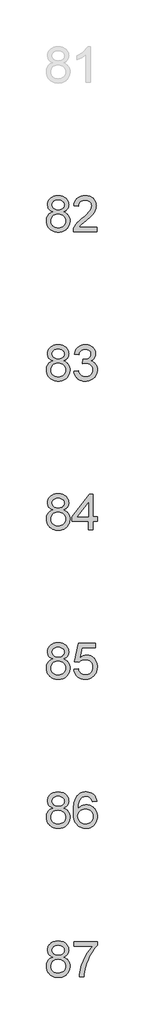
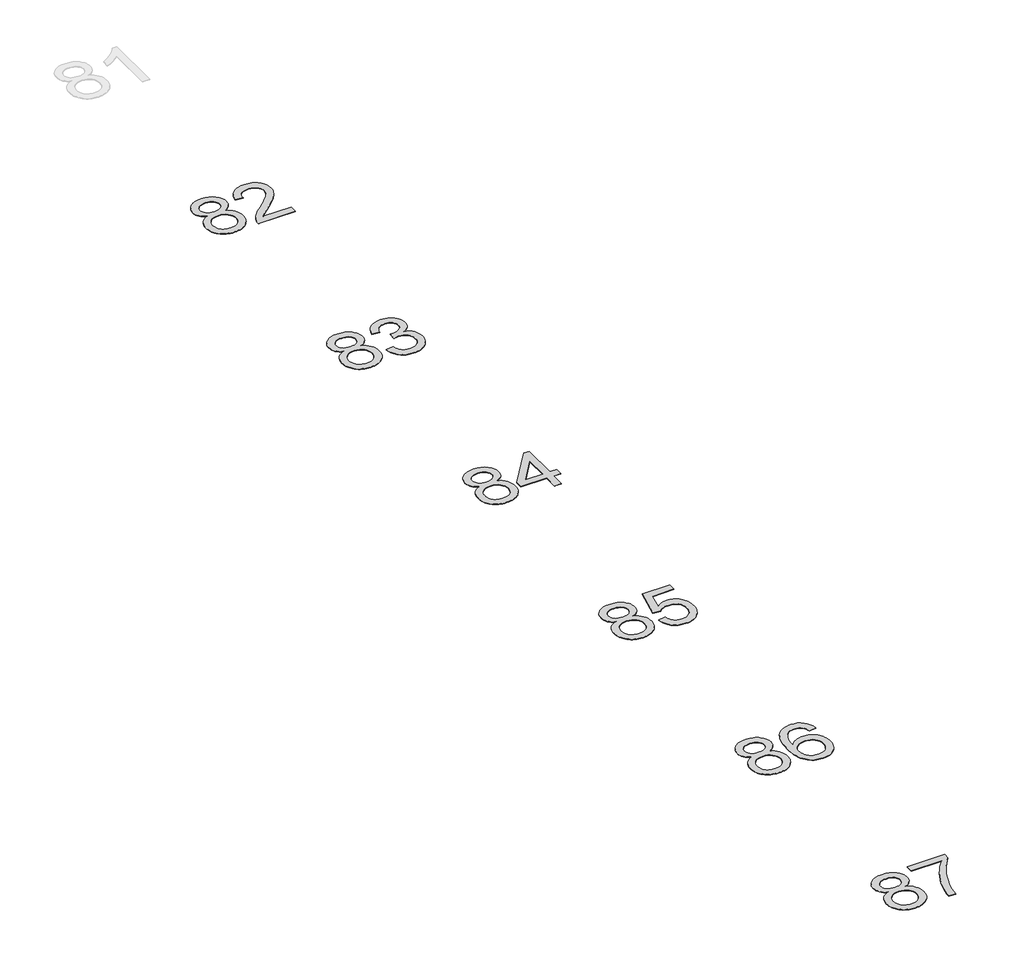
# One storey, part 1 of 19: 6 proxies.
"""IFC4 building model written with IfcOpenShell, lengths in millimetres."""

from ifc_helpers import new_model, si_unit, origin, origin_with_axes, place, context, project, spatial, polyline, outline, extrude, element, save

model = new_model("IFC4")

# Units and contexts
model_context = context("Model", 3, world=origin())
ifc_project = project(units=[si_unit("LENGTHUNIT", "METRE", prefix="MILLI")], contexts=[model_context])

# Site, building, storey
site = spatial("IfcSite", under=ifc_project)
building = spatial("IfcBuilding", under=site)
storey = spatial("IfcBuildingStorey", under=building, Name="Marelli - Linha ACTIVE - Planta Baixa", Elevation=0.0)

# Proxies
placement = place(None, origin())
element("IfcBuildingElementProxy", 1, Name="1200mm Arial", ObjectType="1200mm Arial", at=placement, inside=storey, context=model_context, shape_type="SweptSolid", body=[
    extrude(outline(polyline([(-24961.5794045, -198324.8650154), (-25004.9251006, -198306.7652212), (-25042.255926, -198285.1337599), (-25073.5718809, -198259.9706314), (-25098.8729651, -198231.2758358), (-25118.3799079, -198199.3252845), (-25132.3134384, -198164.3948891), (-25140.6735568, -198126.4846495), (-25143.4602629, -198085.5945657), (-25137.39021, -198024.1398784), (-25129.8026438, -197995.3301197), (-25119.1800512, -197967.7987509), (-25105.5224321, -197941.545772), (-25088.8297866, -197916.571183), (-25046.3394162, -197870.4571749), (-25021.0521275, -197850.0397242), (-24993.750685, -197832.3446002), (-24964.4350885, -197817.371803), (-24933.1053381, -197805.1213326), (-24864.4033755, -197788.787372), (-24787.6447972, -197783.3427185), (-24710.5183369, -197788.9161307), (-24641.3013395, -197805.6363674), (-24609.6588894, -197818.1765449), (-24579.993805, -197833.5034285), (-24552.3060863, -197851.6170183), (-24526.5957334, -197872.5173141), (-24483.3328108, -197919.5326331), (-24466.3366626, -197944.8613085), (-24452.4307232, -197971.4039944), (-24441.6149925, -197999.1606909), (-24433.8894706, -198028.1313981), (-24429.2541575, -198058.3161158), (-24427.7090531, -198089.7148441), (-24430.458971, -198129.160991), (-24438.7087247, -198165.9767817), (-24452.4583143, -198200.1622161), (-24471.7077397, -198231.7172942), (-24496.5489714, -198260.2189518), (-24527.07398, -198285.2441245), (-24563.2827654, -198306.7928124), (-24605.1753276, -198324.8650154), (-24555.649214, -198345.9354566), (-24512.4322766, -198372.6528865), (-24475.5245154, -198405.0173051), (-24444.9259305, -198443.0287122), (-24420.9124332, -198485.8409794), (-24403.7599352, -198532.607978), (-24393.4684364, -198583.3297081), (-24390.0379368, -198638.0061697), (-24391.739391, -198676.3670647), (-24396.8437537, -198713.1644613), (-24405.3510248, -198748.3983594), (-24417.2612044, -198782.068759), (-24432.5742925, -198814.1756601), (-24451.290289, -198844.7190628), (-24473.4091939, -198873.6989669), (-24498.9310073, -198901.1153726), (-24527.2303298, -198926.085363), (-24557.681762, -198947.7260214), (-24590.2853038, -198966.0373477), (-24625.0409553, -198981.019342), (-24661.9487165, -198992.6720042), (-24701.0085873, -199000.9953343), (-24742.2205678, -199005.9893324), (-24785.584658, -199007.6539984), (-24828.9487482, -199005.9824346), (-24870.1607287, -199000.9677432), (-24909.2205995, -198992.6099241), (-24946.1283607, -198980.9089774), (-24980.8840122, -198965.864903), (-25013.487554, -198947.4777011), (-25043.9389862, -198925.7473715), (-25072.2383086, -198900.6739142), (-25097.760122, -198873.1034579), (-25119.879027, -198843.8821312), (-25138.5950235, -198813.009934), (-25153.9081116, -198780.4868664), (-25165.8182912, -198746.3129283), (-25174.3255623, -198710.4881198), (-25179.429925, -198673.0124408), (-25181.1313792, -198633.8858913), (-25177.5629239, -198576.7170293), (-25166.8575578, -198524.4042096), (-25149.015281, -198476.9474322), (-25124.0360936, -198434.3466971), (-25092.4718184, -198397.3745566), (-25054.8742785, -198366.8035628), (-25011.2434738, -198342.6337157), (-24961.5794045, -198324.8650154)]), holes=[polyline([(-24992.7757977, -198090.0091497), (-24989.4372686, -198124.553269), (-24979.4216812, -198155.7864504), (-24962.7290357, -198183.7086938), (-24939.359332, -198208.3199993), (-24909.6068756, -198228.4063562), (-24873.7659722, -198242.753754), (-24831.8366218, -198251.3621927), (-24783.8188244, -198254.2316723), (-24736.9874464, -198251.3805868), (-24695.968604, -198242.8273304), (-24660.762297, -198228.5719031), (-24631.3685256, -198208.6143049), (-24608.1919599, -198184.5180342), (-24591.6372701, -198157.8465896), (-24581.7044563, -198128.5999709), (-24578.3935183, -198096.7781784), (-24581.8148209, -198063.714784), (-24592.0787285, -198033.3921106), (-24609.1852413, -198005.810158), (-24633.1343592, -197980.9689263), (-24663.1903182, -197960.4319139), (-24698.6173543, -197945.7626193), (-24739.4154676, -197936.9610426), (-24785.584658, -197934.0271837), (-24832.1125333, -197936.8966633), (-24873.1037846, -197945.5051019), (-24908.5584119, -197959.8524998), (-24938.4764152, -197979.9388567), (-24962.232395, -198004.0351274), (-24979.2009521, -198030.4122664), (-24989.3820863, -198059.0702739), (-24992.7757977, -198090.0091497)]), polyline([(-25030.446914, -198628.5883906), (-25028.8742185, -198657.6418712), (-25024.1561319, -198686.2354992), (-25005.2837855, -198742.0431979), (-24990.2833972, -198767.9328933), (-24970.4453606, -198790.7139859), (-24945.7696757, -198810.3864756), (-24916.2563427, -198826.9503624), (-24884.0666681, -198840.0837496), (-24851.3619587, -198849.4647405), (-24818.1422146, -198855.093335), (-24784.4074356, -198856.9695332), (-24729.9241121, -198853.0239988), (-24681.8419354, -198841.1873956), (-24640.1609053, -198821.4597236), (-24604.881022, -198793.8409828), (-24576.8116257, -198760.133795), (-24556.762057, -198722.140782), (-24544.7323157, -198679.8619437), (-24540.722402, -198633.2972801), (-24544.8610744, -198585.9876555), (-24557.2770918, -198542.9454621), (-24577.970454, -198504.1706998), (-24606.9411611, -198469.6633687), (-24643.1775377, -198441.336455), (-24685.6679081, -198421.1029453), (-24734.4122725, -198408.9628395), (-24789.4106307, -198404.9161375), (-24843.0938109, -198408.9076572), (-24890.5413912, -198420.8822161), (-24931.7533717, -198440.8398144), (-24966.7297524, -198468.7804519), (-24994.6060106, -198502.7175659), (-25014.5176236, -198540.6645937), (-25026.4645914, -198582.6215353), (-25030.446914, -198628.5883906)])]), origin_with_axes(), (0.0, 0.0, 1.0), 10.0),
    extrude(outline(polyline([(-23485.9311454, -198838.133975), (-23485.9311454, -198988.8184403), (-24277.0245879, -198988.8184403), (-24273.7136499, -198935.7698566), (-24260.8377801, -198884.9285648), (-24244.411849, -198844.029284), (-24223.6816986, -198803.7370085), (-24198.6473288, -198764.0517383), (-24169.3087397, -198724.9734733), (-24133.9000976, -198684.9755034), (-24090.6555691, -198642.5311182), (-23980.6588525, -198550.303102), (-23891.2267395, -198473.3605827), (-23818.0550107, -198405.8726307), (-23761.143666, -198347.839246), (-23720.4927056, -198299.2604285), (-23692.0370332, -198255.7032003), (-23671.711553, -198212.7345832), (-23659.5162649, -198170.3545774), (-23655.4511688, -198128.5631827), (-23659.2863386, -198089.2457945), (-23670.791848, -198053.1105855), (-23689.967697, -198020.1575558), (-23716.8138856, -197990.3867054), (-23749.8404917, -197965.7294146), (-23787.5575933, -197948.1170641), (-23829.9651903, -197937.5496538), (-23877.0632827, -197934.0271837), (-23926.6813668, -197937.4668804), (-23971.0571325, -197947.7859703), (-24010.1905797, -197964.9844536), (-24044.0817085, -197989.0623302), (-24071.4981142, -198019.2102597), (-24091.2073921, -198054.6189017), (-24103.2095422, -198095.2882563), (-24107.5045645, -198141.2183234), (-24258.1890297, -198122.3827652), (-24245.2303864, -198044.5941173), (-24234.7710414, -198009.3832119), (-24221.6583476, -197976.6279187), (-24205.8923048, -197946.3282379), (-24187.4729132, -197918.4841694), (-24166.4001726, -197893.0957132), (-24142.6740832, -197870.1628693), (-24116.5521623, -197849.8143965), (-24088.2919273, -197832.1790533), (-24057.8933782, -197817.2568399), (-24025.356515, -197805.0477562), (-23953.8678462, -197788.7689779), (-23873.8259211, -197783.3427185), (-23793.0666262, -197789.3759832), (-23756.01861, -197796.9175641), (-23721.1916813, -197807.4757774), (-23688.5858403, -197821.050623), (-23658.2010867, -197837.642101), (-23630.0374207, -197857.2502113), (-23604.0948423, -197879.874954), (-23580.8148098, -197904.7345798), (-23560.6387816, -197931.0473395), (-23543.5667578, -197958.8132331), (-23529.5987383, -197988.0322606), (-23518.7347231, -198018.7044219), (-23510.9747123, -198050.8297172), (-23506.3187057, -198084.4081463), (-23504.7667036, -198119.4397093), (-23506.4405667, -198155.6301005), (-23511.4621559, -198191.5077921), (-23519.8314713, -198227.072784), (-23531.5485128, -198262.3250762), (-23547.1559065, -198297.880871), (-23567.1962782, -198334.3563708), (-23620.5759557, -198410.0664855), (-23657.4101404, -198452.0510182), (-23705.6670611, -198500.4550917), (-23836.4491104, -198616.5218611), (-24009.7951066, -198761.4673672), (-24047.3926465, -198799.6903065), (-24077.7796993, -198838.133975), (-23485.9311454, -198838.133975)])), origin_with_axes(), (0.0, 0.0, 1.0), 10.0),
])
element("IfcBuildingElementProxy", 2, Name="1200mm Arial", ObjectType="1200mm Arial", at=placement, inside=storey, context=model_context, shape_type="SweptSolid", body=[
    extrude(outline(polyline([(-24961.5794045, -203324.8650154), (-25004.9251006, -203306.7652212), (-25042.255926, -203285.1337599), (-25073.5718809, -203259.9706314), (-25098.8729651, -203231.2758358), (-25118.3799079, -203199.3252845), (-25132.3134384, -203164.3948891), (-25140.6735568, -203126.4846495), (-25143.4602629, -203085.5945657), (-25137.39021, -203024.1398784), (-25129.8026438, -202995.3301197), (-25119.1800512, -202967.7987509), (-25105.5224321, -202941.545772), (-25088.8297866, -202916.571183), (-25046.3394162, -202870.4571749), (-25021.0521275, -202850.0397242), (-24993.750685, -202832.3446002), (-24964.4350885, -202817.371803), (-24933.1053381, -202805.1213326), (-24864.4033755, -202788.787372), (-24787.6447972, -202783.3427185), (-24710.5183369, -202788.9161307), (-24641.3013395, -202805.6363674), (-24609.6588894, -202818.1765449), (-24579.993805, -202833.5034285), (-24552.3060863, -202851.6170183), (-24526.5957334, -202872.5173141), (-24483.3328108, -202919.5326331), (-24466.3366626, -202944.8613085), (-24452.4307232, -202971.4039944), (-24441.6149925, -202999.1606909), (-24433.8894706, -203028.1313981), (-24429.2541575, -203058.3161158), (-24427.7090531, -203089.7148441), (-24430.458971, -203129.160991), (-24438.7087247, -203165.9767817), (-24452.4583143, -203200.1622161), (-24471.7077397, -203231.7172942), (-24496.5489714, -203260.2189518), (-24527.07398, -203285.2441245), (-24563.2827654, -203306.7928124), (-24605.1753276, -203324.8650154), (-24555.649214, -203345.9354566), (-24512.4322766, -203372.6528865), (-24475.5245154, -203405.0173051), (-24444.9259305, -203443.0287122), (-24420.9124332, -203485.8409794), (-24403.7599352, -203532.607978), (-24393.4684364, -203583.3297081), (-24390.0379368, -203638.0061697), (-24391.739391, -203676.3670647), (-24396.8437537, -203713.1644613), (-24405.3510248, -203748.3983594), (-24417.2612044, -203782.068759), (-24432.5742925, -203814.1756601), (-24451.290289, -203844.7190628), (-24473.4091939, -203873.6989669), (-24498.9310073, -203901.1153726), (-24527.2303298, -203926.085363), (-24557.681762, -203947.7260214), (-24590.2853038, -203966.0373477), (-24625.0409553, -203981.019342), (-24661.9487165, -203992.6720042), (-24701.0085873, -204000.9953343), (-24742.2205678, -204005.9893324), (-24785.584658, -204007.6539984), (-24828.9487482, -204005.9824346), (-24870.1607287, -204000.9677432), (-24909.2205995, -203992.6099241), (-24946.1283607, -203980.9089774), (-24980.8840122, -203965.864903), (-25013.487554, -203947.4777011), (-25043.9389862, -203925.7473715), (-25072.2383086, -203900.6739142), (-25097.760122, -203873.1034579), (-25119.879027, -203843.8821312), (-25138.5950235, -203813.009934), (-25153.9081116, -203780.4868664), (-25165.8182912, -203746.3129283), (-25174.3255623, -203710.4881198), (-25179.429925, -203673.0124408), (-25181.1313792, -203633.8858913), (-25177.5629239, -203576.7170293), (-25166.8575578, -203524.4042096), (-25149.015281, -203476.9474322), (-25124.0360936, -203434.3466971), (-25092.4718184, -203397.3745566), (-25054.8742785, -203366.8035628), (-25011.2434738, -203342.6337157), (-24961.5794045, -203324.8650154)]), holes=[polyline([(-24992.7757977, -203090.0091497), (-24989.4372686, -203124.553269), (-24979.4216812, -203155.7864504), (-24962.7290357, -203183.7086938), (-24939.359332, -203208.3199993), (-24909.6068756, -203228.4063562), (-24873.7659722, -203242.753754), (-24831.8366218, -203251.3621927), (-24783.8188244, -203254.2316723), (-24736.9874464, -203251.3805868), (-24695.968604, -203242.8273304), (-24660.762297, -203228.5719031), (-24631.3685256, -203208.6143049), (-24608.1919599, -203184.5180342), (-24591.6372701, -203157.8465896), (-24581.7044563, -203128.5999709), (-24578.3935183, -203096.7781784), (-24581.8148209, -203063.714784), (-24592.0787285, -203033.3921106), (-24609.1852413, -203005.810158), (-24633.1343592, -202980.9689263), (-24663.1903182, -202960.4319139), (-24698.6173543, -202945.7626193), (-24739.4154676, -202936.9610426), (-24785.584658, -202934.0271837), (-24832.1125333, -202936.8966633), (-24873.1037846, -202945.5051019), (-24908.5584119, -202959.8524998), (-24938.4764152, -202979.9388567), (-24962.232395, -203004.0351274), (-24979.2009521, -203030.4122664), (-24989.3820863, -203059.0702739), (-24992.7757977, -203090.0091497)]), polyline([(-25030.446914, -203628.5883906), (-25028.8742185, -203657.6418712), (-25024.1561319, -203686.2354992), (-25005.2837855, -203742.0431979), (-24990.2833972, -203767.9328933), (-24970.4453606, -203790.7139859), (-24945.7696757, -203810.3864756), (-24916.2563427, -203826.9503624), (-24884.0666681, -203840.0837496), (-24851.3619587, -203849.4647405), (-24818.1422146, -203855.093335), (-24784.4074356, -203856.9695332), (-24729.9241121, -203853.0239988), (-24681.8419354, -203841.1873956), (-24640.1609053, -203821.4597236), (-24604.881022, -203793.8409828), (-24576.8116257, -203760.133795), (-24556.762057, -203722.140782), (-24544.7323157, -203679.8619437), (-24540.722402, -203633.2972801), (-24544.8610744, -203585.9876555), (-24557.2770918, -203542.9454621), (-24577.970454, -203504.1706998), (-24606.9411611, -203469.6633687), (-24643.1775377, -203441.336455), (-24685.6679081, -203421.1029453), (-24734.4122725, -203408.9628395), (-24789.4106307, -203404.9161375), (-24843.0938109, -203408.9076572), (-24890.5413912, -203420.8822161), (-24931.7533717, -203440.8398144), (-24966.7297524, -203468.7804519), (-24994.6060106, -203502.7175659), (-25014.5176236, -203540.6645937), (-25026.4645914, -203582.6215353), (-25030.446914, -203628.5883906)])]), origin_with_axes(), (0.0, 0.0, 1.0), 10.0),
    extrude(outline(polyline([(-24258.1890297, -203668.6139517), (-24107.5045645, -203649.7783935), (-24092.5961466, -203700.9691731), (-24073.7697855, -203744.4712191), (-24051.0254812, -203780.2845313), (-24024.3632336, -203808.4091098), (-23993.1760374, -203829.6542951), (-23956.8568875, -203844.8294274), (-23915.4057836, -203853.9345067), (-23868.822726, -203856.9695332), (-23814.2290379, -203852.7940726), (-23765.5214618, -203840.2676906), (-23722.6999975, -203819.3903874), (-23685.7646452, -203790.1621629), (-23656.0213859, -203754.7719149), (-23634.7762007, -203715.4085415), (-23622.0290895, -203672.0720424), (-23617.7800525, -203624.7624178), (-23621.9923013, -203579.7060705), (-23634.6290479, -203538.7148192), (-23655.6902921, -203501.7886639), (-23685.176034, -203468.9276047), (-23721.1548931, -203441.9526574), (-23761.695489, -203422.6848379), (-23806.7978216, -203411.1241462), (-23856.461891, -203407.2705823), (-23904.0658211, -203411.3908606), (-23962.1176, -203423.7516957), (-23945.342181, -203273.0672305), (-23921.2091221, -203274.833064), (-23874.8743848, -203272.1291314), (-23830.9308805, -203264.0173334), (-23789.3786092, -203250.49767), (-23750.2175708, -203231.5701414), (-23716.9978266, -203207.0324123), (-23693.2694379, -203176.6821477), (-23679.0324047, -203140.5193476), (-23674.286727, -203098.5440119), (-23677.7264236, -203064.4689421), (-23688.0455136, -203033.465687), (-23705.2439969, -203005.5342465), (-23729.3218734, -202980.6746207), (-23758.8260095, -202960.266367), (-23792.303271, -202945.6890429), (-23829.7536581, -202936.9426485), (-23871.1771708, -202934.0271837), (-23912.4903188, -202936.9702397), (-23950.1982233, -202945.7994075), (-23984.3008843, -202960.5146873), (-24014.7983017, -202981.1160791), (-24040.9363175, -203007.6035827), (-24061.9607735, -203039.9771983), (-24077.8716698, -203078.2369258), (-24088.6690063, -203122.3827652), (-24239.3534716, -203103.5472071), (-24221.4928007, -203031.6078829), (-24194.9869029, -202968.2402092), (-24159.8357783, -202913.4441861), (-24116.0394268, -202867.2198134), (-24064.9774058, -202830.5235844), (-24008.029273, -202804.3119922), (-23945.1950282, -202788.5850369), (-23876.4746715, -202783.3427185), (-23828.1441744, -202785.9270895), (-23781.7450578, -202793.6802025), (-23737.2773216, -202806.6020576), (-23694.7409659, -202824.6926547), (-23655.6167157, -202847.2622151), (-23621.3852961, -202873.6209601), (-23592.0467069, -202903.7688896), (-23567.6009484, -202937.7060036), (-23548.351523, -202974.0803359), (-23534.6019334, -203011.5399201), (-23526.3521796, -203050.0847561), (-23523.6022617, -203089.7148441), (-23526.2142239, -203126.9812902), (-23534.0501104, -203162.5554791), (-23547.1099212, -203196.4374109), (-23565.3936564, -203228.6270854), (-23588.7909513, -203258.3703447), (-23617.1914413, -203284.9130307), (-23650.5951265, -203308.2551433), (-23689.0020068, -203328.3966825), (-23638.7861144, -203344.1052437), (-23594.6770632, -203366.5092572), (-23556.6748531, -203395.608723), (-23524.7794841, -203431.4036412), (-23499.5427793, -203473.0110948), (-23481.5165615, -203519.5481672), (-23470.7008308, -203571.0148583), (-23467.0955873, -203627.4111682), (-23468.8982091, -203666.3882656), (-23474.3060744, -203703.8570468), (-23483.3191833, -203739.8175118), (-23495.9375357, -203774.2696607), (-23512.1611317, -203807.2134933), (-23531.9899712, -203838.6490098), (-23555.4240543, -203868.5762101), (-23582.463381, -203896.9950943), (-23612.257224, -203922.9307749), (-23643.9548565, -203945.4083648), (-23677.5562782, -203964.427864), (-23713.0614893, -203979.9892724), (-23750.4704896, -203992.09259), (-23789.7832793, -204000.7378169), (-23830.9998584, -204005.924953), (-23874.1202267, -204007.6539984), (-23950.3453761, -204001.7494924), (-23985.9195651, -203994.3688599), (-24019.8014968, -203984.0359743), (-24051.9911714, -203970.7508358), (-24082.4885888, -203954.5134442), (-24111.293749, -203935.3237996), (-24138.4066521, -203913.1819021), (-24163.2616794, -203888.6947568), (-24185.2932124, -203862.469369), (-24204.501251, -203834.5057389), (-24220.8857954, -203804.8038663), (-24234.4468454, -203773.3637513), (-24245.1844012, -203740.1853938), (-24258.1890297, -203668.6139517)])), origin_with_axes(), (0.0, 0.0, 1.0), 10.0),
])
element("IfcBuildingElementProxy", 3, Name="1200mm Arial", ObjectType="1200mm Arial", at=placement, inside=storey, context=model_context, shape_type="SweptSolid", body=[
    extrude(outline(polyline([(-24961.5794045, -208324.8650154), (-25004.9251006, -208306.7652212), (-25042.255926, -208285.1337599), (-25073.5718809, -208259.9706314), (-25098.8729651, -208231.2758358), (-25118.3799079, -208199.3252845), (-25132.3134384, -208164.3948891), (-25140.6735568, -208126.4846495), (-25143.4602629, -208085.5945657), (-25137.39021, -208024.1398784), (-25129.8026438, -207995.3301197), (-25119.1800512, -207967.7987509), (-25105.5224321, -207941.545772), (-25088.8297866, -207916.571183), (-25046.3394162, -207870.4571749), (-25021.0521275, -207850.0397242), (-24993.750685, -207832.3446002), (-24964.4350885, -207817.371803), (-24933.1053381, -207805.1213326), (-24864.4033755, -207788.787372), (-24787.6447972, -207783.3427185), (-24710.5183369, -207788.9161307), (-24641.3013395, -207805.6363674), (-24609.6588894, -207818.1765449), (-24579.993805, -207833.5034285), (-24552.3060863, -207851.6170183), (-24526.5957334, -207872.5173141), (-24483.3328108, -207919.5326331), (-24466.3366626, -207944.8613085), (-24452.4307232, -207971.4039944), (-24441.6149925, -207999.1606909), (-24433.8894706, -208028.1313981), (-24429.2541575, -208058.3161158), (-24427.7090531, -208089.7148441), (-24430.458971, -208129.160991), (-24438.7087247, -208165.9767817), (-24452.4583143, -208200.1622161), (-24471.7077397, -208231.7172942), (-24496.5489714, -208260.2189518), (-24527.07398, -208285.2441245), (-24563.2827654, -208306.7928124), (-24605.1753276, -208324.8650154), (-24555.649214, -208345.9354566), (-24512.4322766, -208372.6528865), (-24475.5245154, -208405.0173051), (-24444.9259305, -208443.0287122), (-24420.9124332, -208485.8409794), (-24403.7599352, -208532.607978), (-24393.4684364, -208583.3297081), (-24390.0379368, -208638.0061697), (-24391.739391, -208676.3670647), (-24396.8437537, -208713.1644613), (-24405.3510248, -208748.3983594), (-24417.2612044, -208782.068759), (-24432.5742925, -208814.1756601), (-24451.290289, -208844.7190628), (-24473.4091939, -208873.6989669), (-24498.9310073, -208901.1153726), (-24527.2303298, -208926.085363), (-24557.681762, -208947.7260214), (-24590.2853038, -208966.0373477), (-24625.0409553, -208981.019342), (-24661.9487165, -208992.6720042), (-24701.0085873, -209000.9953343), (-24742.2205678, -209005.9893324), (-24785.584658, -209007.6539984), (-24828.9487482, -209005.9824346), (-24870.1607287, -209000.9677432), (-24909.2205995, -208992.6099241), (-24946.1283607, -208980.9089774), (-24980.8840122, -208965.864903), (-25013.487554, -208947.4777011), (-25043.9389862, -208925.7473715), (-25072.2383086, -208900.6739142), (-25097.760122, -208873.1034579), (-25119.879027, -208843.8821312), (-25138.5950235, -208813.009934), (-25153.9081116, -208780.4868664), (-25165.8182912, -208746.3129283), (-25174.3255623, -208710.4881198), (-25179.429925, -208673.0124408), (-25181.1313792, -208633.8858913), (-25177.5629239, -208576.7170293), (-25166.8575578, -208524.4042096), (-25149.015281, -208476.9474322), (-25124.0360936, -208434.3466971), (-25092.4718184, -208397.3745566), (-25054.8742785, -208366.8035628), (-25011.2434738, -208342.6337157), (-24961.5794045, -208324.8650154)]), holes=[polyline([(-24992.7757977, -208090.0091497), (-24989.4372686, -208124.553269), (-24979.4216812, -208155.7864504), (-24962.7290357, -208183.7086938), (-24939.359332, -208208.3199993), (-24909.6068756, -208228.4063562), (-24873.7659722, -208242.753754), (-24831.8366218, -208251.3621927), (-24783.8188244, -208254.2316723), (-24736.9874464, -208251.3805868), (-24695.968604, -208242.8273304), (-24660.762297, -208228.5719031), (-24631.3685256, -208208.6143049), (-24608.1919599, -208184.5180342), (-24591.6372701, -208157.8465896), (-24581.7044563, -208128.5999709), (-24578.3935183, -208096.7781784), (-24581.8148209, -208063.714784), (-24592.0787285, -208033.3921106), (-24609.1852413, -208005.810158), (-24633.1343592, -207980.9689263), (-24663.1903182, -207960.4319139), (-24698.6173543, -207945.7626193), (-24739.4154676, -207936.9610426), (-24785.584658, -207934.0271837), (-24832.1125333, -207936.8966633), (-24873.1037846, -207945.5051019), (-24908.5584119, -207959.8524998), (-24938.4764152, -207979.9388567), (-24962.232395, -208004.0351274), (-24979.2009521, -208030.4122664), (-24989.3820863, -208059.0702739), (-24992.7757977, -208090.0091497)]), polyline([(-25030.446914, -208628.5883906), (-25028.8742185, -208657.6418712), (-25024.1561319, -208686.2354992), (-25005.2837855, -208742.0431979), (-24990.2833972, -208767.9328933), (-24970.4453606, -208790.7139859), (-24945.7696757, -208810.3864756), (-24916.2563427, -208826.9503624), (-24884.0666681, -208840.0837496), (-24851.3619587, -208849.4647405), (-24818.1422146, -208855.093335), (-24784.4074356, -208856.9695332), (-24729.9241121, -208853.0239988), (-24681.8419354, -208841.1873956), (-24640.1609053, -208821.4597236), (-24604.881022, -208793.8409828), (-24576.8116257, -208760.133795), (-24556.762057, -208722.140782), (-24544.7323157, -208679.8619437), (-24540.722402, -208633.2972801), (-24544.8610744, -208585.9876555), (-24557.2770918, -208542.9454621), (-24577.970454, -208504.1706998), (-24606.9411611, -208469.6633687), (-24643.1775377, -208441.336455), (-24685.6679081, -208421.1029453), (-24734.4122725, -208408.9628395), (-24789.4106307, -208404.9161375), (-24843.0938109, -208408.9076572), (-24890.5413912, -208420.8822161), (-24931.7533717, -208440.8398144), (-24966.7297524, -208468.7804519), (-24994.6060106, -208502.7175659), (-25014.5176236, -208540.6645937), (-25026.4645914, -208582.6215353), (-25030.446914, -208628.5883906)])]), origin_with_axes(), (0.0, 0.0, 1.0), 10.0),
    extrude(outline(polyline([(-23768.4645177, -208988.8184403), (-23768.4645177, -208706.285068), (-24314.6957042, -208706.285068), (-24314.6957042, -208555.6006027), (-23730.7934014, -207802.1782766), (-23617.7800525, -207802.1782766), (-23617.7800525, -208555.6006027), (-23467.0955873, -208555.6006027), (-23467.0955873, -208706.285068), (-23617.7800525, -208706.285068), (-23617.7800525, -208988.8184403), (-23768.4645177, -208988.8184403)]), holes=[polyline([(-23768.4645177, -208555.6006027), (-23768.4645177, -208090.0091497), (-24129.2831786, -208555.6006027), (-23768.4645177, -208555.6006027)])]), origin_with_axes(), (0.0, 0.0, 1.0), 10.0),
])
element("IfcBuildingElementProxy", 4, Name="1200mm Arial", ObjectType="1200mm Arial", at=placement, inside=storey, context=model_context, shape_type="SweptSolid", body=[
    extrude(outline(polyline([(-24961.5794045, -213324.8650154), (-25004.9251006, -213306.7652212), (-25042.255926, -213285.1337599), (-25073.5718809, -213259.9706314), (-25098.8729651, -213231.2758358), (-25118.3799079, -213199.3252845), (-25132.3134384, -213164.3948891), (-25140.6735568, -213126.4846495), (-25143.4602629, -213085.5945657), (-25137.39021, -213024.1398784), (-25129.8026438, -212995.3301197), (-25119.1800512, -212967.7987509), (-25105.5224321, -212941.545772), (-25088.8297866, -212916.571183), (-25046.3394162, -212870.4571749), (-25021.0521275, -212850.0397242), (-24993.750685, -212832.3446002), (-24964.4350885, -212817.371803), (-24933.1053381, -212805.1213326), (-24864.4033755, -212788.787372), (-24787.6447972, -212783.3427185), (-24710.5183369, -212788.9161307), (-24641.3013395, -212805.6363674), (-24609.6588894, -212818.1765449), (-24579.993805, -212833.5034285), (-24552.3060863, -212851.6170183), (-24526.5957334, -212872.5173141), (-24483.3328108, -212919.5326331), (-24466.3366626, -212944.8613085), (-24452.4307232, -212971.4039944), (-24441.6149925, -212999.1606909), (-24433.8894706, -213028.1313981), (-24429.2541575, -213058.3161158), (-24427.7090531, -213089.7148441), (-24430.458971, -213129.160991), (-24438.7087247, -213165.9767817), (-24452.4583143, -213200.1622161), (-24471.7077397, -213231.7172942), (-24496.5489714, -213260.2189518), (-24527.07398, -213285.2441245), (-24563.2827654, -213306.7928124), (-24605.1753276, -213324.8650154), (-24555.649214, -213345.9354566), (-24512.4322766, -213372.6528865), (-24475.5245154, -213405.0173051), (-24444.9259305, -213443.0287122), (-24420.9124332, -213485.8409794), (-24403.7599352, -213532.607978), (-24393.4684364, -213583.3297081), (-24390.0379368, -213638.0061697), (-24391.739391, -213676.3670647), (-24396.8437537, -213713.1644613), (-24405.3510248, -213748.3983594), (-24417.2612044, -213782.068759), (-24432.5742925, -213814.1756601), (-24451.290289, -213844.7190628), (-24473.4091939, -213873.6989669), (-24498.9310073, -213901.1153726), (-24527.2303298, -213926.085363), (-24557.681762, -213947.7260214), (-24590.2853038, -213966.0373477), (-24625.0409553, -213981.019342), (-24661.9487165, -213992.6720042), (-24701.0085873, -214000.9953343), (-24742.2205678, -214005.9893324), (-24785.584658, -214007.6539984), (-24828.9487482, -214005.9824346), (-24870.1607287, -214000.9677432), (-24909.2205995, -213992.6099241), (-24946.1283607, -213980.9089774), (-24980.8840122, -213965.864903), (-25013.487554, -213947.4777011), (-25043.9389862, -213925.7473715), (-25072.2383086, -213900.6739142), (-25097.760122, -213873.1034579), (-25119.879027, -213843.8821312), (-25138.5950235, -213813.009934), (-25153.9081116, -213780.4868664), (-25165.8182912, -213746.3129283), (-25174.3255623, -213710.4881198), (-25179.429925, -213673.0124408), (-25181.1313792, -213633.8858913), (-25177.5629239, -213576.7170293), (-25166.8575578, -213524.4042096), (-25149.015281, -213476.9474322), (-25124.0360936, -213434.3466971), (-25092.4718184, -213397.3745566), (-25054.8742785, -213366.8035628), (-25011.2434738, -213342.6337157), (-24961.5794045, -213324.8650154)]), holes=[polyline([(-24992.7757977, -213090.0091497), (-24989.4372686, -213124.553269), (-24979.4216812, -213155.7864504), (-24962.7290357, -213183.7086938), (-24939.359332, -213208.3199993), (-24909.6068756, -213228.4063562), (-24873.7659722, -213242.753754), (-24831.8366218, -213251.3621927), (-24783.8188244, -213254.2316723), (-24736.9874464, -213251.3805868), (-24695.968604, -213242.8273304), (-24660.762297, -213228.5719031), (-24631.3685256, -213208.6143049), (-24608.1919599, -213184.5180342), (-24591.6372701, -213157.8465896), (-24581.7044563, -213128.5999709), (-24578.3935183, -213096.7781784), (-24581.8148209, -213063.714784), (-24592.0787285, -213033.3921106), (-24609.1852413, -213005.810158), (-24633.1343592, -212980.9689263), (-24663.1903182, -212960.4319139), (-24698.6173543, -212945.7626193), (-24739.4154676, -212936.9610426), (-24785.584658, -212934.0271837), (-24832.1125333, -212936.8966633), (-24873.1037846, -212945.5051019), (-24908.5584119, -212959.8524998), (-24938.4764152, -212979.9388567), (-24962.232395, -213004.0351274), (-24979.2009521, -213030.4122664), (-24989.3820863, -213059.0702739), (-24992.7757977, -213090.0091497)]), polyline([(-25030.446914, -213628.5883906), (-25028.8742185, -213657.6418712), (-25024.1561319, -213686.2354992), (-25005.2837855, -213742.0431979), (-24990.2833972, -213767.9328933), (-24970.4453606, -213790.7139859), (-24945.7696757, -213810.3864756), (-24916.2563427, -213826.9503624), (-24884.0666681, -213840.0837496), (-24851.3619587, -213849.4647405), (-24818.1422146, -213855.093335), (-24784.4074356, -213856.9695332), (-24729.9241121, -213853.0239988), (-24681.8419354, -213841.1873956), (-24640.1609053, -213821.4597236), (-24604.881022, -213793.8409828), (-24576.8116257, -213760.133795), (-24556.762057, -213722.140782), (-24544.7323157, -213679.8619437), (-24540.722402, -213633.2972801), (-24544.8610744, -213585.9876555), (-24557.2770918, -213542.9454621), (-24577.970454, -213504.1706998), (-24606.9411611, -213469.6633687), (-24643.1775377, -213441.336455), (-24685.6679081, -213421.1029453), (-24734.4122725, -213408.9628395), (-24789.4106307, -213404.9161375), (-24843.0938109, -213408.9076572), (-24890.5413912, -213420.8822161), (-24931.7533717, -213440.8398144), (-24966.7297524, -213468.7804519), (-24994.6060106, -213502.7175659), (-25014.5176236, -213540.6645937), (-25026.4645914, -213582.6215353), (-25030.446914, -213628.5883906)])]), origin_with_axes(), (0.0, 0.0, 1.0), 10.0),
    extrude(outline(polyline([(-24258.1890297, -213668.6139517), (-24107.5045645, -213649.7783935), (-24096.2473754, -213698.2192552), (-24079.8398384, -213740.2405761), (-24058.2819535, -213775.8423562), (-24031.5737207, -213805.0245955), (-23999.7703222, -213827.7505057), (-23962.9269404, -213843.9832988), (-23921.0435752, -213853.7229746), (-23874.1202267, -213856.9695332), (-23816.7306355, -213852.4537817), (-23766.110073, -213838.9065272), (-23722.2585391, -213816.3277698), (-23685.176034, -213784.7175093), (-23655.6902921, -213745.6392444), (-23634.6290479, -213700.6564734), (-23621.9923013, -213649.7691965), (-23617.7800525, -213592.9774135), (-23621.7255869, -213539.3034304), (-23633.5621901, -213491.5891356), (-23653.2898621, -213449.8345291), (-23680.9086029, -213414.039611), (-23716.510383, -213385.3264213), (-23760.1871728, -213364.817), (-23811.9389725, -213352.5113473), (-23871.765782, -213348.4094631), (-23910.0531006, -213350.0465379), (-23944.8639344, -213354.9577626), (-23976.1982834, -213363.143137), (-24004.0561474, -213374.6026611), (-24051.3289838, -213404.6954083), (-24088.6690063, -213442.5872538), (-24239.3534716, -213423.7516957), (-24107.5045645, -212802.1782766), (-23523.6022617, -212802.1782766), (-23523.6022617, -212952.8627418), (-23985.6620477, -212952.8627418), (-24050.1149732, -213284.8394543), (-23996.9376308, -213246.7268796), (-23942.4727014, -213219.503612), (-23886.7201851, -213203.1696514), (-23829.6800817, -213197.7249978), (-23792.2411909, -213199.4126565), (-23756.2968207, -213204.4756325), (-23721.8469711, -213212.9139257), (-23688.8916422, -213224.7275363), (-23657.4308338, -213239.9164642), (-23627.464546, -213258.4807093), (-23598.9927789, -213280.4202718), (-23572.0155323, -213305.7351516), (-23547.4249202, -213333.7033803), (-23526.1130564, -213363.6029895), (-23508.0799408, -213395.4339791), (-23493.3255735, -213429.1963492), (-23481.8499545, -213464.8900998), (-23473.6530838, -213502.5152308), (-23468.7349614, -213542.0717424), (-23467.0955873, -213583.5596344), (-23473.0000933, -213661.6241938), (-23480.3807258, -213698.6147284), (-23490.7136114, -213734.2440996), (-23503.9987499, -213768.5123075), (-23520.2361415, -213801.4193519), (-23539.4257861, -213832.965233), (-23561.5676836, -213863.1499507), (-23591.5684603, -213897.0180869), (-23624.1811992, -213926.3704716), (-23659.4059003, -213951.2071048), (-23697.2425635, -213971.5279865), (-23737.6911888, -213987.3331167), (-23780.7517764, -213998.6224954), (-23826.4243261, -214005.3961227), (-23874.7088379, -214007.6539984), (-23952.4698947, -214001.8506599), (-23988.529228, -213994.5964869), (-24022.7077646, -213984.4406445), (-24055.0055045, -213971.383133), (-24085.4224477, -213955.4239522), (-24113.9585942, -213936.5631021), (-24140.613944, -213914.8005828), (-24164.9516373, -213890.6422321), (-24186.5348141, -213864.5938875), (-24205.3634745, -213836.6555493), (-24221.4376184, -213806.8272173), (-24234.7572459, -213775.1088915), (-24245.3223569, -213741.500572), (-24258.1890297, -213668.6139517)])), origin_with_axes(), (0.0, 0.0, 1.0), 10.0),
])
element("IfcBuildingElementProxy", 5, Name="1200mm Arial", ObjectType="1200mm Arial", at=placement, inside=storey, context=model_context, shape_type="SweptSolid", body=[
    extrude(outline(polyline([(-24961.5794045, -218324.8650154), (-25004.9251006, -218306.7652212), (-25042.255926, -218285.1337599), (-25073.5718809, -218259.9706314), (-25098.8729651, -218231.2758358), (-25118.3799079, -218199.3252845), (-25132.3134384, -218164.3948891), (-25140.6735568, -218126.4846495), (-25143.4602629, -218085.5945657), (-25137.39021, -218024.1398784), (-25129.8026438, -217995.3301197), (-25119.1800512, -217967.7987509), (-25105.5224321, -217941.545772), (-25088.8297866, -217916.571183), (-25046.3394162, -217870.4571749), (-25021.0521275, -217850.0397242), (-24993.750685, -217832.3446002), (-24964.4350885, -217817.371803), (-24933.1053381, -217805.1213326), (-24864.4033755, -217788.787372), (-24787.6447972, -217783.3427185), (-24710.5183369, -217788.9161307), (-24641.3013395, -217805.6363674), (-24609.6588894, -217818.1765449), (-24579.993805, -217833.5034285), (-24552.3060863, -217851.6170183), (-24526.5957334, -217872.5173141), (-24483.3328108, -217919.5326331), (-24466.3366626, -217944.8613085), (-24452.4307232, -217971.4039944), (-24441.6149925, -217999.1606909), (-24433.8894706, -218028.1313981), (-24429.2541575, -218058.3161158), (-24427.7090531, -218089.7148441), (-24430.458971, -218129.160991), (-24438.7087247, -218165.9767817), (-24452.4583143, -218200.1622161), (-24471.7077397, -218231.7172942), (-24496.5489714, -218260.2189518), (-24527.07398, -218285.2441245), (-24563.2827654, -218306.7928124), (-24605.1753276, -218324.8650154), (-24555.649214, -218345.9354566), (-24512.4322766, -218372.6528865), (-24475.5245154, -218405.0173051), (-24444.9259305, -218443.0287122), (-24420.9124332, -218485.8409794), (-24403.7599352, -218532.607978), (-24393.4684364, -218583.3297081), (-24390.0379368, -218638.0061697), (-24391.739391, -218676.3670647), (-24396.8437537, -218713.1644613), (-24405.3510248, -218748.3983594), (-24417.2612044, -218782.068759), (-24432.5742925, -218814.1756601), (-24451.290289, -218844.7190628), (-24473.4091939, -218873.6989669), (-24498.9310073, -218901.1153726), (-24527.2303298, -218926.085363), (-24557.681762, -218947.7260214), (-24590.2853038, -218966.0373477), (-24625.0409553, -218981.019342), (-24661.9487165, -218992.6720042), (-24701.0085873, -219000.9953343), (-24742.2205678, -219005.9893324), (-24785.584658, -219007.6539984), (-24828.9487482, -219005.9824346), (-24870.1607287, -219000.9677432), (-24909.2205995, -218992.6099241), (-24946.1283607, -218980.9089774), (-24980.8840122, -218965.864903), (-25013.487554, -218947.4777011), (-25043.9389862, -218925.7473715), (-25072.2383086, -218900.6739142), (-25097.760122, -218873.1034579), (-25119.879027, -218843.8821312), (-25138.5950235, -218813.009934), (-25153.9081116, -218780.4868664), (-25165.8182912, -218746.3129283), (-25174.3255623, -218710.4881198), (-25179.429925, -218673.0124408), (-25181.1313792, -218633.8858913), (-25177.5629239, -218576.7170293), (-25166.8575578, -218524.4042096), (-25149.015281, -218476.9474322), (-25124.0360936, -218434.3466971), (-25092.4718184, -218397.3745566), (-25054.8742785, -218366.8035628), (-25011.2434738, -218342.6337157), (-24961.5794045, -218324.8650154)]), holes=[polyline([(-24992.7757977, -218090.0091497), (-24989.4372686, -218124.553269), (-24979.4216812, -218155.7864504), (-24962.7290357, -218183.7086938), (-24939.359332, -218208.3199993), (-24909.6068756, -218228.4063562), (-24873.7659722, -218242.753754), (-24831.8366218, -218251.3621927), (-24783.8188244, -218254.2316723), (-24736.9874464, -218251.3805868), (-24695.968604, -218242.8273304), (-24660.762297, -218228.5719031), (-24631.3685256, -218208.6143049), (-24608.1919599, -218184.5180342), (-24591.6372701, -218157.8465896), (-24581.7044563, -218128.5999709), (-24578.3935183, -218096.7781784), (-24581.8148209, -218063.714784), (-24592.0787285, -218033.3921106), (-24609.1852413, -218005.810158), (-24633.1343592, -217980.9689263), (-24663.1903182, -217960.4319139), (-24698.6173543, -217945.7626193), (-24739.4154676, -217936.9610426), (-24785.584658, -217934.0271837), (-24832.1125333, -217936.8966633), (-24873.1037846, -217945.5051019), (-24908.5584119, -217959.8524998), (-24938.4764152, -217979.9388567), (-24962.232395, -218004.0351274), (-24979.2009521, -218030.4122664), (-24989.3820863, -218059.0702739), (-24992.7757977, -218090.0091497)]), polyline([(-25030.446914, -218628.5883906), (-25028.8742185, -218657.6418712), (-25024.1561319, -218686.2354992), (-25005.2837855, -218742.0431979), (-24990.2833972, -218767.9328933), (-24970.4453606, -218790.7139859), (-24945.7696757, -218810.3864756), (-24916.2563427, -218826.9503624), (-24884.0666681, -218840.0837496), (-24851.3619587, -218849.4647405), (-24818.1422146, -218855.093335), (-24784.4074356, -218856.9695332), (-24729.9241121, -218853.0239988), (-24681.8419354, -218841.1873956), (-24640.1609053, -218821.4597236), (-24604.881022, -218793.8409828), (-24576.8116257, -218760.133795), (-24556.762057, -218722.140782), (-24544.7323157, -218679.8619437), (-24540.722402, -218633.2972801), (-24544.8610744, -218585.9876555), (-24557.2770918, -218542.9454621), (-24577.970454, -218504.1706998), (-24606.9411611, -218469.6633687), (-24643.1775377, -218441.336455), (-24685.6679081, -218421.1029453), (-24734.4122725, -218408.9628395), (-24789.4106307, -218404.9161375), (-24843.0938109, -218408.9076572), (-24890.5413912, -218420.8822161), (-24931.7533717, -218440.8398144), (-24966.7297524, -218468.7804519), (-24994.6060106, -218502.7175659), (-25014.5176236, -218540.6645937), (-25026.4645914, -218582.6215353), (-25030.446914, -218628.5883906)])]), origin_with_axes(), (0.0, 0.0, 1.0), 10.0),
    extrude(outline(polyline([(-23485.9311454, -218103.5472071), (-23636.6156107, -218122.3827652), (-23647.6888587, -218082.0812927), (-23660.8958223, -218047.7027202), (-23676.2365015, -218019.2470479), (-23693.7108963, -217996.7142757), (-23726.102906, -217969.2886729), (-23762.063371, -217949.6989567), (-23801.5922914, -217937.9451269), (-23844.6896671, -217934.0271837), (-23880.2270679, -217936.3080521), (-23914.734399, -217943.1506572), (-23948.2116606, -217954.554999), (-23980.6588525, -217970.5210776), (-24010.2641561, -217996.6315022), (-24037.2758916, -218028.1681863), (-24061.694059, -218065.1311297), (-24083.5186584, -218107.5203326), (-24101.5908614, -218158.1316981), (-24114.7518398, -218219.7611293), (-24123.0015935, -218292.4086263), (-24126.3401226, -218376.0741891), (-24097.6177359, -218338.2099347), (-24065.8971108, -218305.5512106), (-24031.1782475, -218278.0980167), (-23993.461146, -218255.8503531), (-23953.7574816, -218238.6610669), (-23913.07893, -218226.3830053), (-23871.4254911, -218219.0161683), (-23828.7971649, -218216.560556), (-23791.8986008, -218218.2390176), (-23756.3979883, -218223.2744024), (-23722.2953273, -218231.6667104), (-23689.590618, -218243.4159416), (-23658.2838602, -218258.5220961), (-23628.375054, -218276.9851737), (-23599.8641993, -218298.8051745), (-23572.7512963, -218323.9820986), (-23547.9882395, -218351.81697), (-23526.5269236, -218381.6108131), (-23508.3673486, -218413.3636278), (-23493.5095145, -218447.0754142), (-23481.9534214, -218482.7461721), (-23473.6990691, -218520.3759017), (-23468.7464577, -218559.9646029), (-23467.0955873, -218601.5122757), (-23470.2041901, -218656.4462547), (-23479.5299987, -218709.4120649), (-23495.073013, -218760.4097065), (-23516.833233, -218809.4391794), (-23544.0381066, -218854.6702707), (-23575.9150815, -218894.2727675), (-23612.4641577, -218928.2466698), (-23653.6853352, -218956.5919775), (-23698.6956973, -218978.9316116), (-23746.6123272, -218994.8884932), (-23797.4352248, -219004.4626221), (-23851.1643902, -219007.6539984), (-23897.1657345, -219005.5386769), (-23940.9919764, -218999.1927125), (-23982.6431161, -218988.6161052), (-24022.1191534, -218973.8088549), (-24059.4200884, -218954.7709616), (-24094.5459212, -218931.5024254), (-24127.4966517, -218904.0032463), (-24158.2722798, -218872.2734242), (-24186.104852, -218835.6875598), (-24210.2264146, -218793.6202536), (-24230.6369675, -218746.0715057), (-24247.3365108, -218693.0413161), (-24260.3250445, -218634.5296848), (-24269.6025686, -218570.5366118), (-24275.169083, -218501.062097), (-24277.0245879, -218426.1061404), (-24274.9644487, -218342.1784618), (-24268.7840312, -218264.1828803), (-24258.4833353, -218192.1193959), (-24244.0623611, -218125.9880088), (-24225.5211085, -218065.7887188), (-24202.8595776, -218011.521526), (-24176.0777684, -217963.1864303), (-24145.1756808, -217920.7834319), (-24115.1611085, -217888.5707647), (-24082.6541357, -217860.6531198), (-24047.6547624, -217837.0304971), (-24010.1629886, -217817.7028968), (-23970.1788142, -217802.6703188), (-23927.7022393, -217791.9327631), (-23882.733264, -217785.4902296), (-23835.271888, -217783.3427185), (-23765.8709497, -217788.6586133), (-23703.055099, -217804.6062978), (-23646.824336, -217831.1857719), (-23597.1786608, -217868.3970358), (-23555.4608425, -217914.9892904), (-23523.0136505, -217969.7117372), (-23499.8370848, -218032.5643761), (-23485.9311454, -218103.5472071)]), holes=[polyline([(-24126.3401226, -218599.157831), (-24124.1604218, -218632.9202011), (-24117.6213193, -218665.9284131), (-24106.7228152, -218698.182467), (-24091.4649095, -218729.6823629), (-24072.5925631, -218758.9473756), (-24050.8507372, -218784.4967801), (-24026.2394317, -218806.3305766), (-23998.7586467, -218824.4487648), (-23968.5831261, -218838.676601), (-23935.8876137, -218848.8393411), (-23900.6721097, -218854.9369852), (-23862.9366141, -218856.9695332), (-23810.559415, -218852.7572844), (-23763.4981108, -218840.1205378), (-23721.7527014, -218819.0592936), (-23685.3231868, -218789.5735517), (-23655.7730656, -218752.8589286), (-23634.6658361, -218710.1110407), (-23622.0014984, -218661.3298882), (-23617.7800525, -218606.5154709), (-23621.9463161, -218553.8439662), (-23634.4451069, -218507.0769676), (-23655.2764249, -218466.214475), (-23684.44027, -218431.2564884), (-23720.9801492, -218403.2514715), (-23763.9395692, -218383.247888), (-23813.31853, -218371.2457379), (-23869.1170316, -218367.2450212), (-23920.7952549, -218371.2457379), (-23968.4083821, -218383.247888), (-24011.9564133, -218403.2514715), (-24051.4393484, -218431.2564884), (-24084.2084371, -218465.7546225), (-24107.6149291, -218505.2375576), (-24121.6588242, -218549.7052938), (-24126.3401226, -218599.157831)])]), origin_with_axes(), (0.0, 0.0, 1.0), 10.0),
])
element("IfcBuildingElementProxy", 6, Name="1200mm Arial", ObjectType="1200mm Arial", at=placement, inside=storey, context=model_context, shape_type="SweptSolid", body=[
    extrude(outline(polyline([(-24961.5794045, -223324.8650154), (-25004.9251006, -223306.7652212), (-25042.255926, -223285.1337599), (-25073.5718809, -223259.9706314), (-25098.8729651, -223231.2758358), (-25118.3799079, -223199.3252845), (-25132.3134384, -223164.3948891), (-25140.6735568, -223126.4846495), (-25143.4602629, -223085.5945657), (-25137.39021, -223024.1398784), (-25129.8026438, -222995.3301197), (-25119.1800512, -222967.7987509), (-25105.5224321, -222941.545772), (-25088.8297866, -222916.571183), (-25046.3394162, -222870.4571749), (-25021.0521275, -222850.0397242), (-24993.750685, -222832.3446002), (-24964.4350885, -222817.371803), (-24933.1053381, -222805.1213326), (-24864.4033755, -222788.787372), (-24787.6447972, -222783.3427185), (-24710.5183369, -222788.9161307), (-24641.3013395, -222805.6363674), (-24609.6588894, -222818.1765449), (-24579.993805, -222833.5034285), (-24552.3060863, -222851.6170183), (-24526.5957334, -222872.5173141), (-24483.3328108, -222919.5326331), (-24466.3366626, -222944.8613085), (-24452.4307232, -222971.4039944), (-24441.6149925, -222999.1606909), (-24433.8894706, -223028.1313981), (-24429.2541575, -223058.3161158), (-24427.7090531, -223089.7148441), (-24430.458971, -223129.160991), (-24438.7087247, -223165.9767817), (-24452.4583143, -223200.1622161), (-24471.7077397, -223231.7172942), (-24496.5489714, -223260.2189518), (-24527.07398, -223285.2441245), (-24563.2827654, -223306.7928124), (-24605.1753276, -223324.8650154), (-24555.649214, -223345.9354566), (-24512.4322766, -223372.6528865), (-24475.5245154, -223405.0173051), (-24444.9259305, -223443.0287122), (-24420.9124332, -223485.8409794), (-24403.7599352, -223532.607978), (-24393.4684364, -223583.3297081), (-24390.0379368, -223638.0061697), (-24391.739391, -223676.3670647), (-24396.8437537, -223713.1644613), (-24405.3510248, -223748.3983594), (-24417.2612044, -223782.068759), (-24432.5742925, -223814.1756601), (-24451.290289, -223844.7190628), (-24473.4091939, -223873.6989669), (-24498.9310073, -223901.1153726), (-24527.2303298, -223926.085363), (-24557.681762, -223947.7260214), (-24590.2853038, -223966.0373477), (-24625.0409553, -223981.019342), (-24661.9487165, -223992.6720042), (-24701.0085873, -224000.9953343), (-24742.2205678, -224005.9893324), (-24785.584658, -224007.6539984), (-24828.9487482, -224005.9824346), (-24870.1607287, -224000.9677432), (-24909.2205995, -223992.6099241), (-24946.1283607, -223980.9089774), (-24980.8840122, -223965.864903), (-25013.487554, -223947.4777011), (-25043.9389862, -223925.7473715), (-25072.2383086, -223900.6739142), (-25097.760122, -223873.1034579), (-25119.879027, -223843.8821312), (-25138.5950235, -223813.009934), (-25153.9081116, -223780.4868664), (-25165.8182912, -223746.3129283), (-25174.3255623, -223710.4881198), (-25179.429925, -223673.0124408), (-25181.1313792, -223633.8858913), (-25177.5629239, -223576.7170293), (-25166.8575578, -223524.4042096), (-25149.015281, -223476.9474322), (-25124.0360936, -223434.3466971), (-25092.4718184, -223397.3745566), (-25054.8742785, -223366.8035628), (-25011.2434738, -223342.6337157), (-24961.5794045, -223324.8650154)]), holes=[polyline([(-24992.7757977, -223090.0091497), (-24989.4372686, -223124.553269), (-24979.4216812, -223155.7864504), (-24962.7290357, -223183.7086938), (-24939.359332, -223208.3199993), (-24909.6068756, -223228.4063562), (-24873.7659722, -223242.753754), (-24831.8366218, -223251.3621927), (-24783.8188244, -223254.2316723), (-24736.9874464, -223251.3805868), (-24695.968604, -223242.8273304), (-24660.762297, -223228.5719031), (-24631.3685256, -223208.6143049), (-24608.1919599, -223184.5180342), (-24591.6372701, -223157.8465896), (-24581.7044563, -223128.5999709), (-24578.3935183, -223096.7781784), (-24581.8148209, -223063.714784), (-24592.0787285, -223033.3921106), (-24609.1852413, -223005.810158), (-24633.1343592, -222980.9689263), (-24663.1903182, -222960.4319139), (-24698.6173543, -222945.7626193), (-24739.4154676, -222936.9610426), (-24785.584658, -222934.0271837), (-24832.1125333, -222936.8966633), (-24873.1037846, -222945.5051019), (-24908.5584119, -222959.8524998), (-24938.4764152, -222979.9388567), (-24962.232395, -223004.0351274), (-24979.2009521, -223030.4122664), (-24989.3820863, -223059.0702739), (-24992.7757977, -223090.0091497)]), polyline([(-25030.446914, -223628.5883906), (-25028.8742185, -223657.6418712), (-25024.1561319, -223686.2354992), (-25005.2837855, -223742.0431979), (-24990.2833972, -223767.9328933), (-24970.4453606, -223790.7139859), (-24945.7696757, -223810.3864756), (-24916.2563427, -223826.9503624), (-24884.0666681, -223840.0837496), (-24851.3619587, -223849.4647405), (-24818.1422146, -223855.093335), (-24784.4074356, -223856.9695332), (-24729.9241121, -223853.0239988), (-24681.8419354, -223841.1873956), (-24640.1609053, -223821.4597236), (-24604.881022, -223793.8409828), (-24576.8116257, -223760.133795), (-24556.762057, -223722.140782), (-24544.7323157, -223679.8619437), (-24540.722402, -223633.2972801), (-24544.8610744, -223585.9876555), (-24557.2770918, -223542.9454621), (-24577.970454, -223504.1706998), (-24606.9411611, -223469.6633687), (-24643.1775377, -223441.336455), (-24685.6679081, -223421.1029453), (-24734.4122725, -223408.9628395), (-24789.4106307, -223404.9161375), (-24843.0938109, -223408.9076572), (-24890.5413912, -223420.8822161), (-24931.7533717, -223440.8398144), (-24966.7297524, -223468.7804519), (-24994.6060106, -223502.7175659), (-25014.5176236, -223540.6645937), (-25026.4645914, -223582.6215353), (-25030.446914, -223628.5883906)])]), origin_with_axes(), (0.0, 0.0, 1.0), 10.0),
    extrude(outline(polyline([(-24258.1890297, -222952.8627418), (-24258.1890297, -222802.1782766), (-23467.0955873, -222802.1782766), (-23467.0955873, -222924.0207934), (-23523.6114588, -222990.5246611), (-23579.8514188, -223066.7222194), (-23635.8154673, -223152.6134682), (-23691.5036043, -223248.1984076), (-23743.8991975, -223349.3383651), (-23789.9856144, -223451.8946683), (-23829.7628552, -223555.8673172), (-23863.2309197, -223661.2563118), (-23883.1701238, -223737.7941609), (-23899.1362024, -223817.9004653), (-23911.1291555, -223901.5752251), (-23919.1489829, -223988.8184403), (-24069.8334482, -223988.8184403), (-24065.0969675, -223914.8189769), (-24053.5362758, -223833.4986619), (-24035.1513731, -223744.8574952), (-24009.9422594, -223648.8954767), (-23978.2032402, -223550.1651463), (-23940.2286213, -223453.2190435), (-23896.0184025, -223358.0571684), (-23845.5725839, -223264.679521), (-23791.1628368, -223175.8268221), (-23735.0608326, -223094.2397926), (-23677.2665711, -223019.9184325), (-23617.7800525, -222952.8627418), (-24258.1890297, -222952.8627418)])), origin_with_axes(), (0.0, 0.0, 1.0), 10.0),
])

save(model, "model.ifc")
